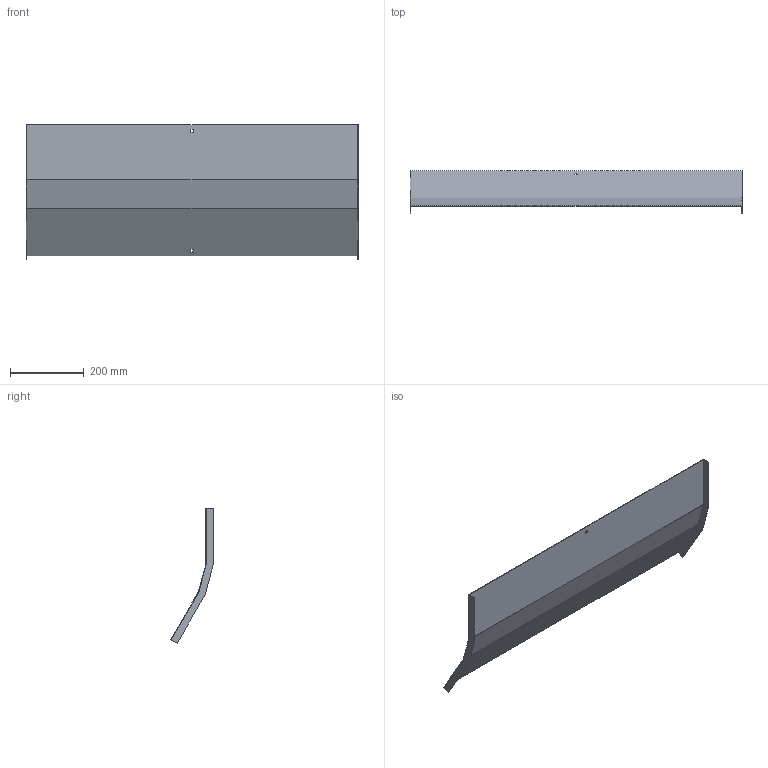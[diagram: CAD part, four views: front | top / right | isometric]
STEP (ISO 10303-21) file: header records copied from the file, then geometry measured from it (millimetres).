
FILE_DESCRIPTION (( 'STEP AP214' ), '1' );
FILE_NAME ('A2X32N3R900X.step', '2025-03-20T09:39:13', ( '' ), ( '' ), 'SwSTEP 2.0', 'SolidWorks 2023', '' );
FILE_SCHEMA (( 'AUTOMOTIVE_DESIGN' ));
Length unit declared in the file: millimetre
Products named in the file (1): A2X32N3R900X
Bounding box: 903 x 115.32 x 365.74 mm (x, y, z)
Volume: 534358.7 mm3; surface area: 716557.1 mm2
Topology: 1 solids, 1 shells, 26 faces, 72 edges, 48 vertices
Faces by surface type: plane 26
Entity records: 847 total; most frequent: CARTESIAN_POINT 147, ORIENTED_EDGE 144, DIRECTION 126, VECTOR 72, LINE 72, EDGE_CURVE 72, VERTEX_POINT 48, EDGE_LOOP 30
